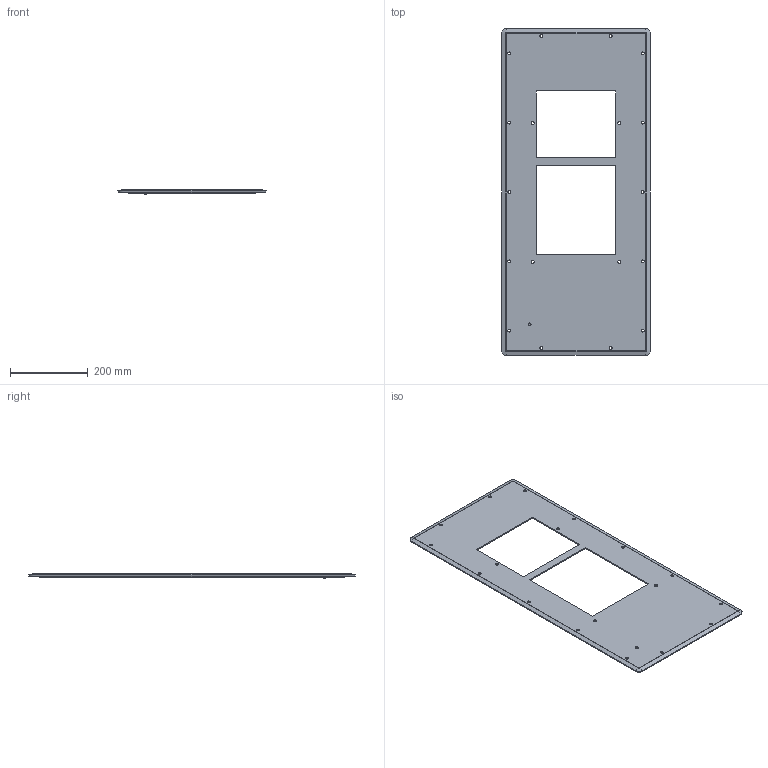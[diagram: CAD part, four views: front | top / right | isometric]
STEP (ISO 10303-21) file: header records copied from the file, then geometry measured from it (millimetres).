
FILE_DESCRIPTION (( 'STEP AP214' ), '1' );
FILE_NAME ('egpaccr23.STEP', '2007-06-27T12:34:58', ( '' ), ( '' ), 'SwSTEP 2.0', 'SolidWorks 2007', '' );
FILE_SCHEMA (( 'AUTOMOTIVE_DESIGN' ));
Length unit declared in the file: inch
Products named in the file (4): GlandPlateFIP; 99411940_PEM FHS-M6-12; plate_gland_EGPACCR23 AC Cutout; egpaccr23
Assembly tree (3 placements, depth 2):
  egpaccr23
    plate_gland_EGPACCR23 AC Cutout
    99411940_PEM FHS-M6-12
    GlandPlateFIP
Bounding box: 381 x 838.2 x 12 mm (x, y, z)
Volume: 863981.3 mm3; surface area: 547326.7 mm2
Topology: 3 solids, 3 shells, 230 faces, 592 edges, 372 vertices
Faces by surface type: plane 91, cylinder 82, torus 30, cone 27
Entity records: 7367 total; most frequent: CARTESIAN_POINT 1344, DIRECTION 1310, ORIENTED_EDGE 1184, EDGE_CURVE 592, AXIS2_PLACEMENT_3D 506, VERTEX_POINT 372, LINE 298, VECTOR 298
